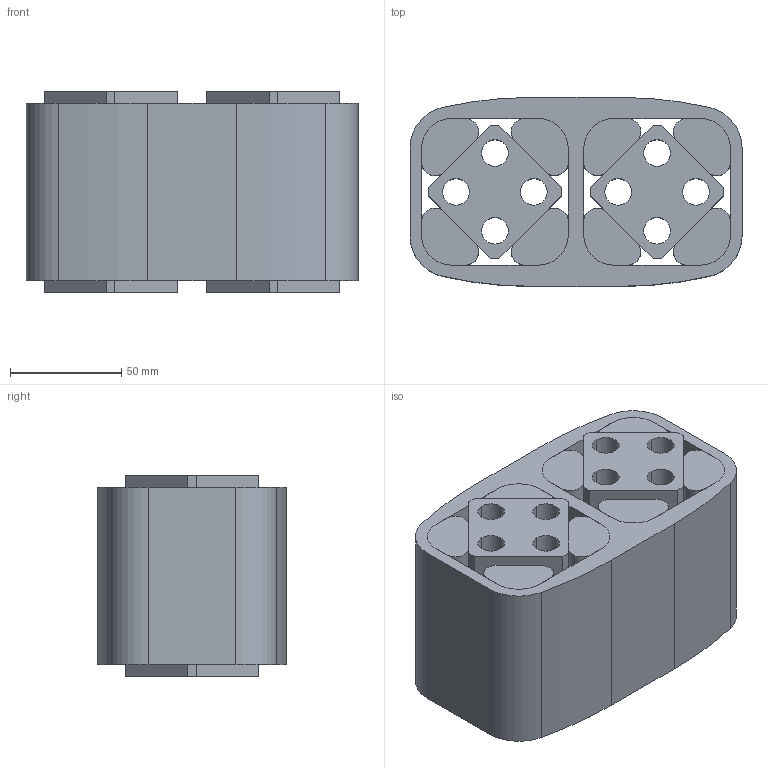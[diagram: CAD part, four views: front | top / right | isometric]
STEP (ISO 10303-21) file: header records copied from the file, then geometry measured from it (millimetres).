
FILE_DESCRIPTION((''),'2;1');
FILE_NAME('D:\ROSTA\Gummifederelemente\3D\DO-A45x80_01041013.stp','2005-02-11T10:20:21',('Administrator'),(''),'Autodesk Inventor 8','Autodesk Inventor 8','');
FILE_SCHEMA(('AUTOMOTIVE_DESIGN { 1 0 10303 214 1 1 1 1 }'));
Length unit declared in the file: millimetre
Products named in the file (4): 3.4.6554-000; 3.4.6554-001; 3.4.6554-002; 3.4.6554-003
Assembly tree (11 placements, depth 2):
  3.4.6554-000
    3.4.6554-001
    3.4.6554-002  x2
    3.4.6554-003  x8
Bounding box: 149.4 x 85 x 90 mm (x, y, z)
Volume: 854461.4 mm3; surface area: 203294.9 mm2
Topology: 11 solids, 11 shells, 130 faces, 324 edges, 216 vertices
Faces by surface type: plane 74, cylinder 56
Entity records: 1959 total; most frequent: DIRECTION 346, CARTESIAN_POINT 321, ORIENTED_EDGE 300, EDGE_CURVE 150, AXIS2_PLACEMENT_3D 125, VERTEX_POINT 100, VECTOR 96, LINE 96
